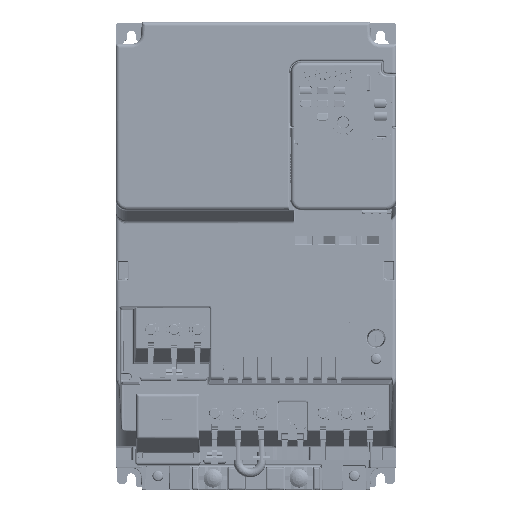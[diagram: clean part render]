
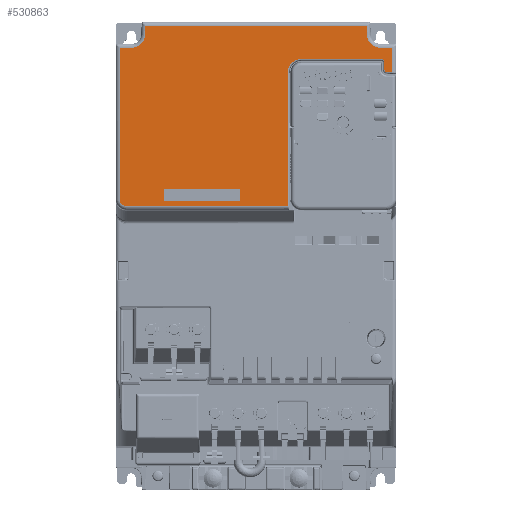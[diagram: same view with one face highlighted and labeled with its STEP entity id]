
A CAD part, top view. The second image highlights one B-rep face of the part: STEP entity #530863.
In plain terms, the highlighted planar face has unit normal (0, 0, 1).
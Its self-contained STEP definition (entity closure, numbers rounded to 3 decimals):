
#424798=DIRECTION('',(-1.,0.,0.));
#424799=VECTOR('',#424798,7.806);
#424800=CARTESIAN_POINT('',(87.5,133.5,129.5));
#424801=LINE('',#424800,#424799);
#424806=DIRECTION('',(-0.999,0.052,0.));
#424807=VECTOR('',#424806,3.587);
#424808=CARTESIAN_POINT('',(87.5,117.748,
129.5));
#424809=LINE('',#424808,#424807);
#424810=CARTESIAN_POINT('',(84.,119.5,129.5));
#424811=DIRECTION('',(0.,0.,-1.));
#424812=DIRECTION('',(-0.052,-0.999,0.));
#424813=AXIS2_PLACEMENT_3D('',#424810,#424811,#424812);
#424815=CARTESIAN_POINT('',(82.433,124.184,
129.5));
#424816=CARTESIAN_POINT('',(82.433,124.462,
129.5));
#424817=CARTESIAN_POINT('',(82.325,124.972,
129.5));
#424818=CARTESIAN_POINT('',(81.885,125.635,
129.5));
#424819=CARTESIAN_POINT('',(81.222,126.075,
129.5));
#424820=CARTESIAN_POINT('',(80.712,126.183,
129.5));
#424821=CARTESIAN_POINT('',(80.434,126.183,
129.5));
#424823=CARTESIAN_POINT('',(29.,117.5,129.5));
#424824=DIRECTION('',(0.,0.,1.));
#424825=DIRECTION('',(0.,1.,0.));
#424826=AXIS2_PLACEMENT_3D('',#424823,#424824,#424825);
#424828=CARTESIAN_POINT('',(-82.997,36.394,
129.5));
#424829=DIRECTION('',(0.,0.,
-1.));
#424830=DIRECTION('',(-0.001,-1.,0.));
#424831=AXIS2_PLACEMENT_3D('',#424828,#424829,#424830);
#424833=CARTESIAN_POINT('',(-79.694,142.,129.5));
#424834=DIRECTION('',(0.,0.,1.));
#424835=DIRECTION('',(0.,-1.,0.));
#424836=AXIS2_PLACEMENT_3D('',#424833,#424834,#424835);
#424838=DIRECTION('',(0.052,0.999,0.));
#424839=VECTOR('',#424838,5.953);
#424840=CARTESIAN_POINT('',(-71.205,141.555,129.5));
#424841=LINE('',#424840,#424839);
#424842=DIRECTION('',(0.052,-0.999,0.));
#424843=VECTOR('',#424842,5.953);
#424844=CARTESIAN_POINT('',(70.894,147.5,129.5));
#424845=LINE('',#424844,#424843);
#424846=CARTESIAN_POINT('',(79.694,142.,129.5));
#424847=DIRECTION('',(0.,0.,1.));
#424848=DIRECTION('',(-0.999,-0.052,0.));
#424849=AXIS2_PLACEMENT_3D('',#424846,#424847,#424848);
#424851=DIRECTION('',(0.,1.,0.));
#424852=VECTOR('',#424851,15.752);
#424853=CARTESIAN_POINT('',(87.5,117.748,
129.5));
#424854=LINE('',#424853,#424852);
#427969=DIRECTION('',(-1.,0.,0.));
#427970=VECTOR('',#427969,141.788);
#427971=CARTESIAN_POINT('',(70.894,147.5,129.5));
#427972=LINE('',#427971,#427970);
#428010=DIRECTION('',(-1.,0.,0.));
#428011=VECTOR('',#428010,7.806);
#428012=CARTESIAN_POINT('',(-79.694,133.5,129.5));
#428013=LINE('',#428012,#428011);
#428036=DIRECTION('',(0.,-1.,0.));
#428037=VECTOR('',#428036,97.101);
#428038=CARTESIAN_POINT('',(-87.5,133.5,129.5));
#428039=LINE('',#428038,#428037);
#428077=DIRECTION('',(1.,0.,0.));
#428078=VECTOR('',#428077,103.317);
#428079=CARTESIAN_POINT('',(-83.001,31.892,
129.5));
#428080=LINE('',#428079,#428078);
#428091=DIRECTION('',(0.,1.,0.));
#428092=VECTOR('',#428091,85.608);
#428093=CARTESIAN_POINT('',(20.317,31.892,
129.5));
#428094=LINE('',#428093,#428092);
#428118=DIRECTION('',(1.,0.,0.));
#428119=VECTOR('',#428118,51.434);
#428120=CARTESIAN_POINT('',(29.,126.183,129.5));
#428121=LINE('',#428120,#428119);
#428142=DIRECTION('',(0.,-1.,0.));
#428143=VECTOR('',#428142,4.684);
#428144=CARTESIAN_POINT('',(82.433,124.184,
129.5));
#428145=LINE('',#428144,#428143);
#496440=CARTESIAN_POINT('',(29.,126.183,129.5));
#496441=CARTESIAN_POINT('',(20.317,117.5,129.5));
#496442=VERTEX_POINT('',#496440);
#496443=VERTEX_POINT('',#496441);
#496444=CARTESIAN_POINT('',(87.5,117.748,
129.5));
#496445=CARTESIAN_POINT('',(87.5,133.5,129.5));
#496446=VERTEX_POINT('',#496444);
#496447=VERTEX_POINT('',#496445);
#496448=CARTESIAN_POINT('',(83.918,117.936,129.5));
#496449=VERTEX_POINT('',#496448);
#496450=CARTESIAN_POINT('',(82.433,119.5,129.5));
#496451=VERTEX_POINT('',#496450);
#496452=CARTESIAN_POINT('',(82.433,124.184,
129.5));
#496453=VERTEX_POINT('',#496452);
#496454=VERTEX_POINT('',#424821);
#496455=CARTESIAN_POINT('',(20.317,31.892,
129.5));
#496456=VERTEX_POINT('',#496455);
#496457=CARTESIAN_POINT('',(-83.001,31.892,
129.5));
#496458=VERTEX_POINT('',#496457);
#496459=CARTESIAN_POINT('',(-87.5,36.4,
129.5));
#496460=VERTEX_POINT('',#496459);
#496461=CARTESIAN_POINT('',(-87.5,133.5,129.5));
#496462=VERTEX_POINT('',#496461);
#496463=CARTESIAN_POINT('',(-79.694,133.5,129.5));
#496464=VERTEX_POINT('',#496463);
#496465=CARTESIAN_POINT('',(-71.205,141.555,129.5));
#496466=VERTEX_POINT('',#496465);
#496467=CARTESIAN_POINT('',(-70.894,147.5,129.5));
#496468=VERTEX_POINT('',#496467);
#496469=CARTESIAN_POINT('',(70.894,147.5,129.5));
#496470=VERTEX_POINT('',#496469);
#496471=CARTESIAN_POINT('',(71.205,141.555,129.5));
#496472=VERTEX_POINT('',#496471);
#496473=CARTESIAN_POINT('',(79.694,133.5,129.5));
#496474=VERTEX_POINT('',#496473);
#530821=CARTESIAN_POINT('',(0.,0.,129.5));
#530822=DIRECTION('',(0.,0.,1.));
#530823=DIRECTION('',(1.,0.,0.));
#530824=AXIS2_PLACEMENT_3D('',#530821,#530822,#530823);
#530825=PLANE('',#530824);
#530827=ORIENTED_EDGE('',*,*,#530826,.F.);
#530829=ORIENTED_EDGE('',*,*,#530828,.T.);
#530831=ORIENTED_EDGE('',*,*,#530830,.T.);
#530833=ORIENTED_EDGE('',*,*,#530832,.F.);
#530835=ORIENTED_EDGE('',*,*,#530834,.T.);
#530837=ORIENTED_EDGE('',*,*,#530836,.F.);
#530839=ORIENTED_EDGE('',*,*,#530838,.T.);
#530841=ORIENTED_EDGE('',*,*,#530840,.F.);
#530843=ORIENTED_EDGE('',*,*,#530842,.F.);
#530845=ORIENTED_EDGE('',*,*,#530844,.T.);
#530847=ORIENTED_EDGE('',*,*,#530846,.F.);
#530849=ORIENTED_EDGE('',*,*,#530848,.F.);
#530851=ORIENTED_EDGE('',*,*,#530850,.T.);
#530853=ORIENTED_EDGE('',*,*,#530852,.T.);
#530855=ORIENTED_EDGE('',*,*,#530854,.F.);
#530857=ORIENTED_EDGE('',*,*,#530856,.T.);
#530859=ORIENTED_EDGE('',*,*,#530858,.T.);
#530860=ORIENTED_EDGE('',*,*,#530812,.F.);
#530861=EDGE_LOOP('',(#530827,#530829,#530831,#530833,#530835,#530837,#530839,
#530841,#530843,#530845,#530847,#530849,#530851,#530853,#530855,#530857,#530859,
#530860));
#530862=FACE_OUTER_BOUND('',#530861,.F.);
#530863=ADVANCED_FACE('',(#530862),#530825,.T.);
#424814=CIRCLE('',#424813,1.567);
#424822=B_SPLINE_CURVE_WITH_KNOTS('',3,(#424815,#424816,#424817,#424818,#424819,
#424820,#424821),.UNSPECIFIED.,.F.,.F.,(4,1,1,1,4),(0.,0.25,0.5,0.75,
1.),.UNSPECIFIED.);
#424827=CIRCLE('',#424826,8.683);
#424832=CIRCLE('',#424831,4.503);
#424837=CIRCLE('',#424836,8.5);
#424850=CIRCLE('',#424849,8.5);
#530812=EDGE_CURVE('',#496447,#496474,#424801,.T.);
#530826=EDGE_CURVE('',#496446,#496447,#424854,.T.);
#530828=EDGE_CURVE('',#496446,#496449,#424809,.T.);
#530830=EDGE_CURVE('',#496449,#496451,#424814,.T.);
#530832=EDGE_CURVE('',#496453,#496451,#428145,.T.);
#530834=EDGE_CURVE('',#496453,#496454,#424822,.T.);
#530836=EDGE_CURVE('',#496442,#496454,#428121,.T.);
#530838=EDGE_CURVE('',#496442,#496443,#424827,.T.);
#530840=EDGE_CURVE('',#496456,#496443,#428094,.T.);
#530842=EDGE_CURVE('',#496458,#496456,#428080,.T.);
#530844=EDGE_CURVE('',#496458,#496460,#424832,.T.);
#530846=EDGE_CURVE('',#496462,#496460,#428039,.T.);
#530848=EDGE_CURVE('',#496464,#496462,#428013,.T.);
#530850=EDGE_CURVE('',#496464,#496466,#424837,.T.);
#530852=EDGE_CURVE('',#496466,#496468,#424841,.T.);
#530854=EDGE_CURVE('',#496470,#496468,#427972,.T.);
#530856=EDGE_CURVE('',#496470,#496472,#424845,.T.);
#530858=EDGE_CURVE('',#496472,#496474,#424850,.T.);
